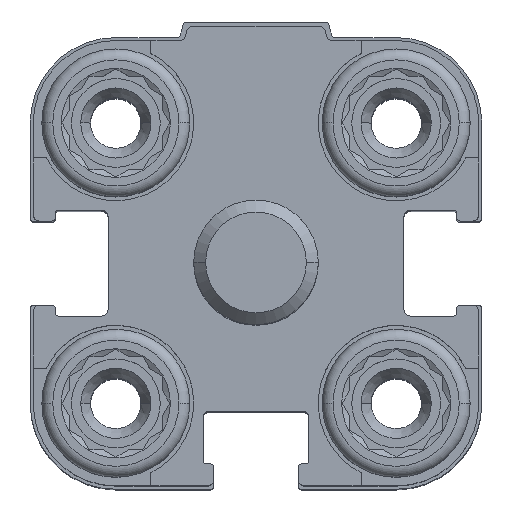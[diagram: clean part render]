
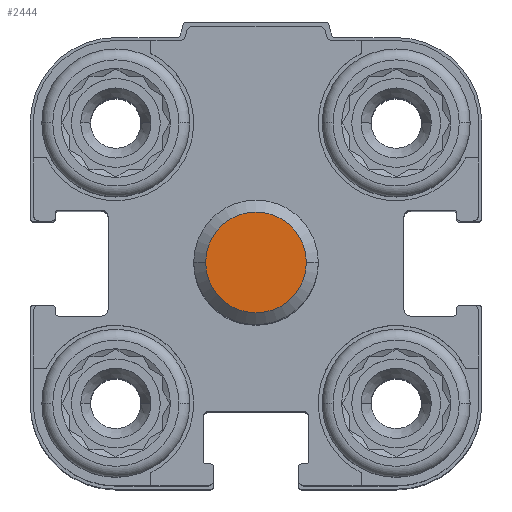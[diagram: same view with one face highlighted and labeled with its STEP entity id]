
A CAD part, top view. The second image highlights one B-rep face of the part: STEP entity #2444.
In plain terms, the highlighted planar face has unit normal (0, 0, 1).
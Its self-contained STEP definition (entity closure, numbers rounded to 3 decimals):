
#745 = CARTESIAN_POINT ( 'NONE',  ( -3.233, 0., 24.5 ) ) ;
#1783 = DIRECTION ( 'NONE',  ( 0., 0., -1. ) ) ;
#2444 = ADVANCED_FACE ( 'NONE', ( #9960 ), #11224, .F. ) ;
#2915 = CARTESIAN_POINT ( 'NONE',  ( 0., 0., 24.5 ) ) ;
#3095 = DIRECTION ( 'NONE',  ( -1., 0., 0. ) ) ;
#5340 = CIRCLE ( 'NONE', #17114, 3.233 ) ;
#5772 = DIRECTION ( 'NONE',  ( 0., 0., -1. ) ) ;
#7782 = EDGE_LOOP ( 'NONE', ( #16673, #9571 ) ) ;
#8034 = AXIS2_PLACEMENT_3D ( 'NONE', #14005, #1783, #15434 ) ;
#8160 = AXIS2_PLACEMENT_3D ( 'NONE', #2915, #5772, #3095 ) ;
#9571 = ORIENTED_EDGE ( 'NONE', *, *, #10520, .F. ) ;
#9576 = CARTESIAN_POINT ( 'NONE',  ( 0., 0., 24.5 ) ) ;
#9960 = FACE_OUTER_BOUND ( 'NONE', #7782, .T. ) ;
#10520 = EDGE_CURVE ( 'NONE', #10647, #10625, #14749, .T. ) ;
#10625 = VERTEX_POINT ( 'NONE', #745 ) ;
#10647 = VERTEX_POINT ( 'NONE', #12971 ) ;
#11224 = PLANE ( 'NONE',  #8034 ) ;
#12535 = DIRECTION ( 'NONE',  ( -1., 0., 0. ) ) ;
#12658 = EDGE_CURVE ( 'NONE', #10625, #10647, #5340, .T. ) ;
#12971 = CARTESIAN_POINT ( 'NONE',  ( 3.233, 0., 24.5 ) ) ;
#14005 = CARTESIAN_POINT ( 'NONE',  ( 0., 0., 24.5 ) ) ;
#14749 = CIRCLE ( 'NONE', #8160, 3.233 ) ;
#15138 = DIRECTION ( 'NONE',  ( 0., 0., -1. ) ) ;
#15434 = DIRECTION ( 'NONE',  ( 0., 1., 0. ) ) ;
#16673 = ORIENTED_EDGE ( 'NONE', *, *, #12658, .F. ) ;
#17114 = AXIS2_PLACEMENT_3D ( 'NONE', #9576, #15138, #12535 ) ;
